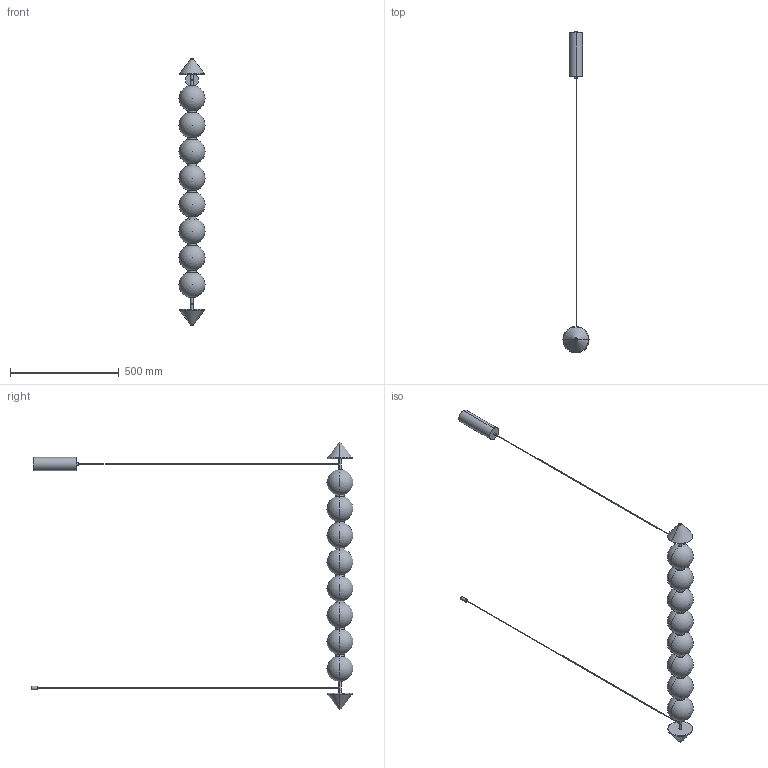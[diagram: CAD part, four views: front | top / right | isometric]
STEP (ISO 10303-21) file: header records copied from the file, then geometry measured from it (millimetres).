
FILE_DESCRIPTION (( 'STEP AP214' ), '1' );
FILE_NAME ('COLGANTE SOKO.STEP', '2024-10-14T15:17:11', ( '' ), ( '' ), 'SwSTEP 2.0', 'SolidWorks 2018', '' );
FILE_SCHEMA (( 'AUTOMOTIVE_DESIGN' ));
Length unit declared in the file: millimetre
Products named in the file (1): COLGANTE SOKO
Bounding box: 120 x 1480 x 1228.76 mm (x, y, z)
Volume: 8528142.7 mm3; surface area: 520259 mm2
Topology: 24 solids, 24 shells, 86 faces, 168 edges, 110 vertices
Faces by surface type: plane 30, cylinder 28, sphere 16, torus 8, cone 4
Entity records: 2161 total; most frequent: DIRECTION 390, CARTESIAN_POINT 297, ORIENTED_EDGE 248, AXIS2_PLACEMENT_3D 179, EDGE_CURVE 124, CIRCLE 92, VERTEX_POINT 86, FACE_OUTER_BOUND 86
